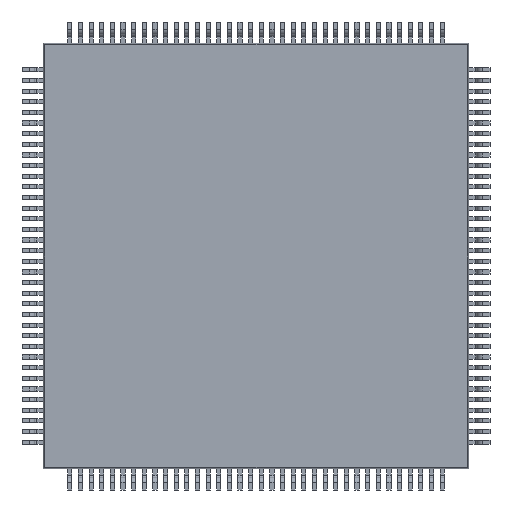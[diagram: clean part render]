
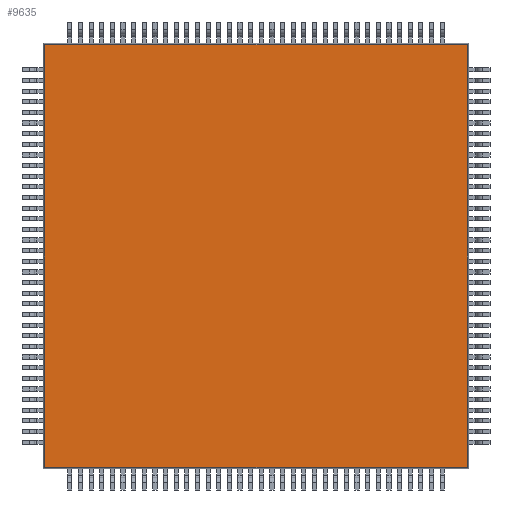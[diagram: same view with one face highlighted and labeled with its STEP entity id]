
A CAD part, front view. The second image highlights one B-rep face of the part: STEP entity #9635.
In plain terms, the highlighted planar face has unit normal (0, -1, 0).
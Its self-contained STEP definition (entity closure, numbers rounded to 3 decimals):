
#557 = VECTOR ( 'NONE', #25768, 1000. ) ;
#1962 = EDGE_CURVE ( 'NONE', #40482, #60354, #37071, .T. ) ;
#2102 = CARTESIAN_POINT ( 'NONE',  ( -9.923, 0.2, -9.923 ) ) ;
#2957 = CARTESIAN_POINT ( 'NONE',  ( -9.923, 0.2, 9.923 ) ) ;
#7488 = VECTOR ( 'NONE', #48833, 1000. ) ;
#9446 = ORIENTED_EDGE ( 'NONE', *, *, #60906, .T. ) ;
#9635 = ADVANCED_FACE ( 'NONE', ( #28002 ), #19347, .T. ) ;
#10071 = ORIENTED_EDGE ( 'NONE', *, *, #54738, .T. ) ;
#10564 = LINE ( 'NONE', #29619, #7488 ) ;
#14819 = DIRECTION ( 'NONE',  ( 1., 0., 0. ) ) ;
#19347 = PLANE ( 'NONE',  #35372 ) ;
#21222 = VERTEX_POINT ( 'NONE', #2957 ) ;
#24183 = LINE ( 'NONE', #25311, #42480 ) ;
#25311 = CARTESIAN_POINT ( 'NONE',  ( -9.923, 0.2, 10. ) ) ;
#25768 = DIRECTION ( 'NONE',  ( 0., 0., 1. ) ) ;
#25955 = EDGE_LOOP ( 'NONE', ( #45590, #9446, #55880, #10071 ) ) ;
#25962 = CARTESIAN_POINT ( 'NONE',  ( 9.923, 0.2, -10. ) ) ;
#28002 = FACE_OUTER_BOUND ( 'NONE', #25955, .T. ) ;
#29619 = CARTESIAN_POINT ( 'NONE',  ( 10., 0.2, 9.923 ) ) ;
#30574 = EDGE_CURVE ( 'NONE', #58549, #21222, #10564, .T. ) ;
#35372 = AXIS2_PLACEMENT_3D ( 'NONE', #58269, #43048, #38350 ) ;
#37071 = LINE ( 'NONE', #48754, #62867 ) ;
#38350 = DIRECTION ( 'NONE',  ( 0., 0., -1. ) ) ;
#38883 = LINE ( 'NONE', #25962, #557 ) ;
#40270 = DIRECTION ( 'NONE',  ( 0., 0., -1. ) ) ;
#40482 = VERTEX_POINT ( 'NONE', #2102 ) ;
#42480 = VECTOR ( 'NONE', #40270, 1000. ) ;
#43048 = DIRECTION ( 'NONE',  ( 0., -1., 0. ) ) ;
#45590 = ORIENTED_EDGE ( 'NONE', *, *, #30574, .T. ) ;
#48754 = CARTESIAN_POINT ( 'NONE',  ( -10., 0.2, -9.923 ) ) ;
#48833 = DIRECTION ( 'NONE',  ( -1., 0., 0. ) ) ;
#50104 = CARTESIAN_POINT ( 'NONE',  ( 9.923, 0.2, -9.923 ) ) ;
#54738 = EDGE_CURVE ( 'NONE', #60354, #58549, #38883, .T. ) ;
#54975 = CARTESIAN_POINT ( 'NONE',  ( 9.923, 0.2, 9.923 ) ) ;
#55880 = ORIENTED_EDGE ( 'NONE', *, *, #1962, .T. ) ;
#58269 = CARTESIAN_POINT ( 'NONE',  ( 0., 0.2, 0. ) ) ;
#58549 = VERTEX_POINT ( 'NONE', #54975 ) ;
#60354 = VERTEX_POINT ( 'NONE', #50104 ) ;
#60906 = EDGE_CURVE ( 'NONE', #21222, #40482, #24183, .T. ) ;
#62867 = VECTOR ( 'NONE', #14819, 1000. ) ;
